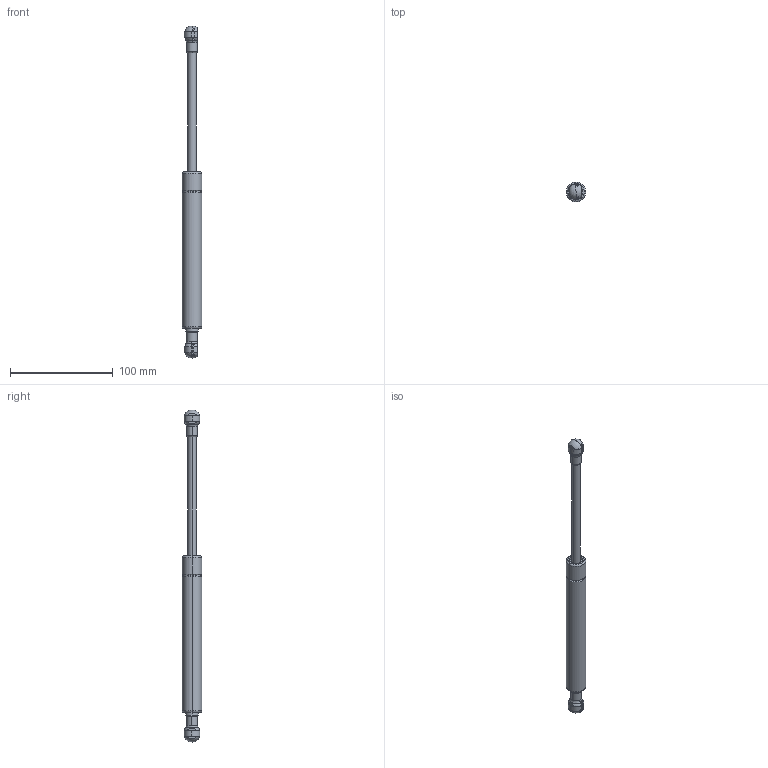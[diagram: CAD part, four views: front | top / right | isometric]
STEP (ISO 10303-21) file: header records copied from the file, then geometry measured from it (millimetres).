
FILE_DESCRIPTION (( 'STEP AP214' ), '1' );
FILE_NAME ('GS08-0425MD10.STEP', '2011-03-23T19:14:05', ( 'user' ), ( '' ), 'SwSTEP 2.0', 'SolidWorks 2011', '' );
FILE_SCHEMA (( 'AUTOMOTIVE_DESIGN' ));
Length unit declared in the file: millimetre
Products named in the file (5): GS08-0425MD10-NC; GS08-0425MD10-SHAFT; GS08-0425MD10-TUBE; socket; GS08-0425MD10
Assembly tree (5 placements, depth 3):
  GS08-0425MD10
    GS08-0425MD10-NC
      GS08-0425MD10-TUBE
      GS08-0425MD10-SHAFT
    socket  x2
Bounding box: 19 x 19 x 323.5 mm (x, y, z)
Volume: 47417.3 mm3; surface area: 19503.8 mm2
Topology: 4 solids, 4 shells, 183 faces, 504 edges, 332 vertices
Faces by surface type: plane 77, cylinder 68, torus 18, sphere 16, cone 4
Entity records: 4522 total; most frequent: CARTESIAN_POINT 890, DIRECTION 592, ORIENTED_EDGE 548, EDGE_CURVE 274, AXIS2_PLACEMENT_3D 244, VERTEX_POINT 179, CIRCLE 130, EDGE_LOOP 111
